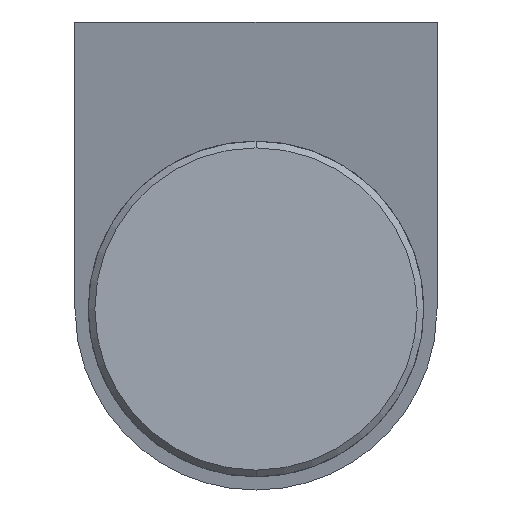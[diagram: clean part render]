
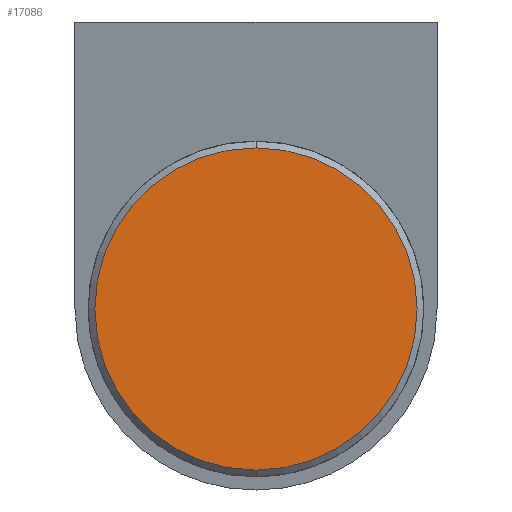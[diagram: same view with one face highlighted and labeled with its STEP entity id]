
A CAD part, front view. The second image highlights one B-rep face of the part: STEP entity #17086.
In plain terms, the highlighted planar face has unit normal (0, -1, 0) as drawn and (0, 1, 0) by its records, which use the part's own axes.
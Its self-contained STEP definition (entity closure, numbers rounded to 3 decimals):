
#16975=CARTESIAN_POINT('',(0.,12.,0.));
#16976=DIRECTION('',(0.,1.,0.));
#16977=DIRECTION('',(0.,0.,-1.));
#16978=AXIS2_PLACEMENT_3D('',#16975,#16976,#16977);
#16980=CARTESIAN_POINT('',(0.,12.,0.));
#16981=DIRECTION('',(0.,1.,0.));
#16982=DIRECTION('',(0.,0.,1.));
#16983=AXIS2_PLACEMENT_3D('',#16980,#16981,#16982);
#17048=CARTESIAN_POINT('',(0.,12.,-36.5));
#17049=CARTESIAN_POINT('',(0.,12.,36.5));
#17050=VERTEX_POINT('',#17048);
#17051=VERTEX_POINT('',#17049);
#17076=CARTESIAN_POINT('',(0.,12.,0.));
#17077=DIRECTION('',(0.,1.,0.));
#17078=DIRECTION('',(0.,0.,1.));
#17079=AXIS2_PLACEMENT_3D('',#17076,#17077,#17078);
#17080=PLANE('',#17079);
#17082=ORIENTED_EDGE('',*,*,#17081,.F.);
#17083=ORIENTED_EDGE('',*,*,#17065,.F.);
#17084=EDGE_LOOP('',(#17082,#17083));
#17085=FACE_OUTER_BOUND('',#17084,.F.);
#17086=ADVANCED_FACE('',(#17085),#17080,.T.);
#16979=CIRCLE('',#16978,36.5);
#16984=CIRCLE('',#16983,36.5);
#17065=EDGE_CURVE('',#17051,#17050,#16984,.T.);
#17081=EDGE_CURVE('',#17050,#17051,#16979,.T.);
